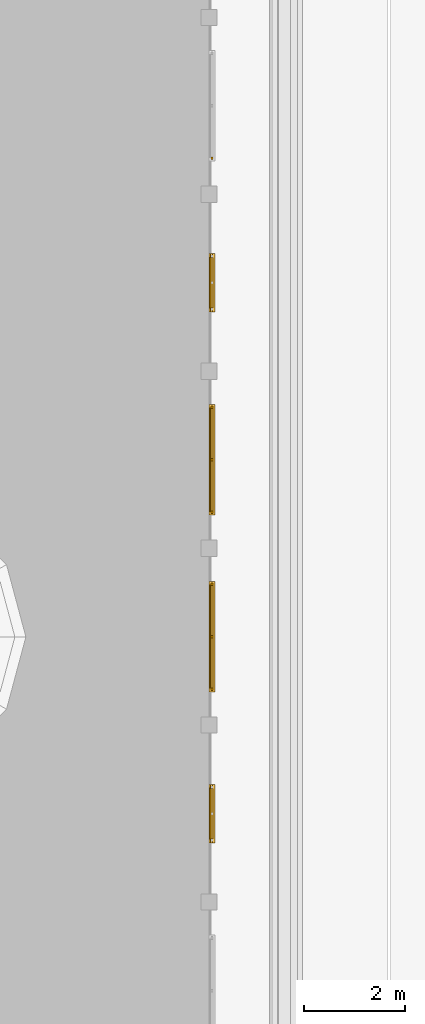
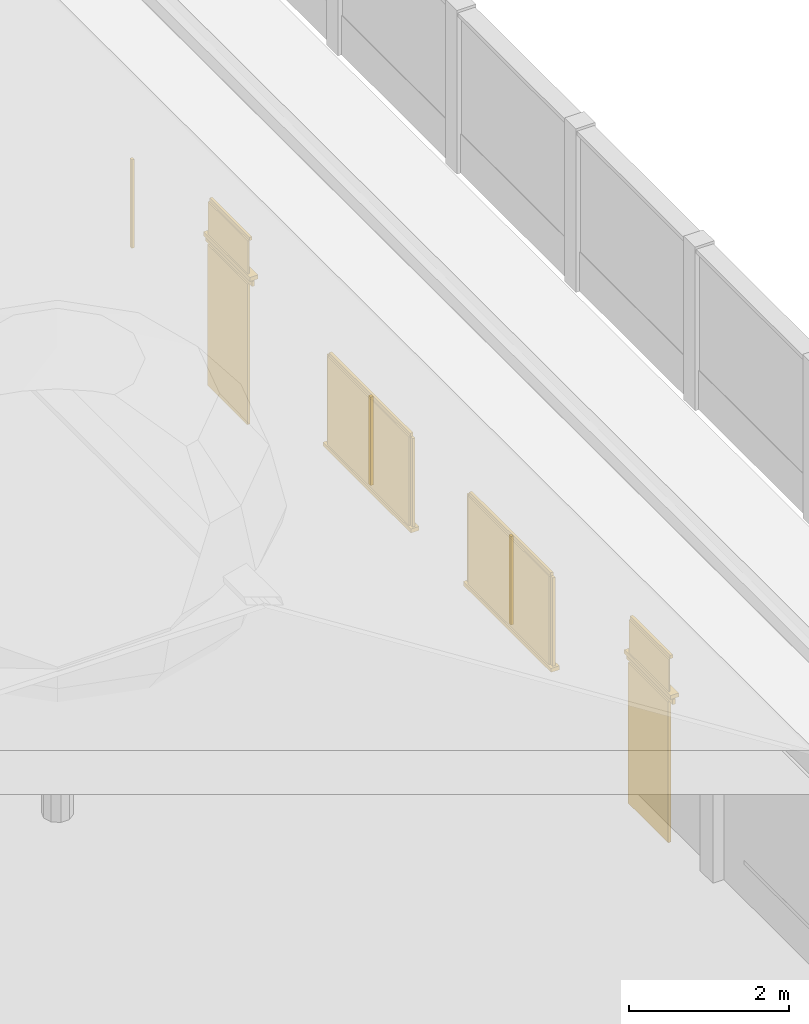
# One storey, part 72 of 177: 19 windows, 4 doors.
"""IFC4 building model written with IfcOpenShell, lengths in metres."""

from ifc_helpers import new_model, si_unit, origin, origin_with_axes, place, context, subcontext, project, spatial, triangles, element, save


model = new_model("IFC4")

# Units and contexts
model_context = context("Model", 3, precision=1e-05, world=origin_with_axes())
body_context = subcontext(model_context, "Body", "Model", "MODEL_VIEW")
ifc_project = project(units=[si_unit("LENGTHUNIT", "METRE"), si_unit("AREAUNIT", "SQUARE_METRE"), si_unit("VOLUMEUNIT", "CUBIC_METRE"), si_unit("PLANEANGLEUNIT", "RADIAN")], contexts=[model_context])

# Site, building, storey
site_placement = place(None, origin_with_axes())
site = spatial("IfcSite", under=ifc_project, at=site_placement, Name="Predio Los Mangos - Morales, San Martín", CompositionType="ELEMENT")
building_placement = place(site_placement, origin())
building = spatial("IfcBuilding", under=site, at=building_placement, Name="Hogar de Refugio Temporal", CompositionType="ELEMENT")
storey_placement = place(building_placement, origin())
storey = spatial("IfcBuildingStorey", under=building, at=storey_placement, Name="NIVEL 1 (NPT +0.00)", CompositionType="ELEMENT", Elevation=0.0)

# Doors
door_1_placement = place(storey_placement, origin())
element("IfcDoor", 1, at=door_1_placement, inside=storey, Name="E-07_p4", ObjectType="Puerta", PredefinedType="DOOR", context=body_context, shape_type="Tessellation", body=[
    triangles([(66.51, 107.995, 0.15), (66.55, 107.995, 0.15), (66.55, 108.995, 0.15), (66.51, 108.995, 0.15), (66.51, 107.995, 2.3), (66.55, 107.995, 2.3), (66.55, 108.995, 2.3), (66.51, 108.995, 2.3)], [[1, 4, 3], [1, 3, 2], [5, 6, 7], [5, 7, 8], [1, 2, 6], [1, 6, 5], [2, 3, 7], [2, 7, 6], [3, 4, 8], [3, 8, 7], [4, 1, 5], [4, 5, 8]]),
])
door_2_placement = place(storey_placement, origin())
element("IfcDoor", 2, at=door_2_placement, inside=storey, Name="E-07_p4_marco", ObjectType="Puerta", PredefinedType="DOOR", context=body_context, shape_type="Tessellation", body=[
    triangles([(66.53, 107.915, 2.3), (66.57, 107.915, 2.3), (66.57, 109.075, 2.3), (66.53, 109.075, 2.3), (66.53, 107.915, 2.38), (66.57, 107.915, 2.38), (66.57, 109.075, 2.38), (66.53, 109.075, 2.38)], [[1, 4, 3], [1, 3, 2], [5, 6, 7], [5, 7, 8], [1, 2, 6], [1, 6, 5], [2, 3, 7], [2, 7, 6], [3, 4, 8], [3, 8, 7], [4, 1, 5], [4, 5, 8]]),
])

# Windows
window_1_placement = place(storey_placement, origin())
element("IfcWindow", 3, at=window_1_placement, inside=storey, Name="E-07_vt4_vid", ObjectType="Ventana", PredefinedType="WINDOW", context=body_context, shape_type="Tessellation", body=[
    triangles([(66.52, 107.995, 2.45), (66.54, 107.995, 2.45), (66.54, 108.995, 2.45), (66.52, 108.995, 2.45), (66.52, 107.995, 2.95), (66.54, 107.995, 2.95), (66.54, 108.995, 2.95), (66.52, 108.995, 2.95)], [[1, 4, 3], [1, 3, 2], [5, 6, 7], [5, 7, 8], [1, 2, 6], [1, 6, 5], [2, 3, 7], [2, 7, 6], [3, 4, 8], [3, 8, 7], [4, 1, 5], [4, 5, 8]]),
])
window_2_placement = place(storey_placement, origin())
element("IfcWindow", 4, at=window_2_placement, inside=storey, Name="E-07_vt4_m", ObjectType="Ventana", PredefinedType="WINDOW", context=body_context, shape_type="Tessellation", body=[
    triangles([(66.54, 107.995, 2.95), (66.58, 107.995, 2.95), (66.58, 108.995, 2.95), (66.54, 108.995, 2.95), (66.54, 107.995, 3.0), (66.58, 107.995, 3.0), (66.58, 108.995, 3.0), (66.54, 108.995, 3.0)], [[1, 4, 3], [1, 3, 2], [5, 6, 7], [5, 7, 8], [1, 2, 6], [1, 6, 5], [2, 3, 7], [2, 7, 6], [3, 4, 8], [3, 8, 7], [4, 1, 5], [4, 5, 8]]),
])
window_3_placement = place(storey_placement, origin())
element("IfcWindow", 5, at=window_3_placement, inside=storey, Name="E-07_vt4_alf", ObjectType="Ventana", PredefinedType="WINDOW", context=body_context, shape_type="Tessellation", body=[
    triangles([(66.5, 107.915, 2.39), (66.62, 107.915, 2.39), (66.62, 109.075, 2.39), (66.5, 109.075, 2.39), (66.5, 107.915, 2.45), (66.62, 107.915, 2.45), (66.62, 109.075, 2.45), (66.5, 109.075, 2.45)], [[1, 4, 3], [1, 3, 2], [5, 6, 7], [5, 7, 8], [1, 2, 6], [1, 6, 5], [2, 3, 7], [2, 7, 6], [3, 4, 8], [3, 8, 7], [4, 1, 5], [4, 5, 8]]),
])
window_4_placement = place(storey_placement, origin())
element("IfcWindow", 6, at=window_4_placement, inside=storey, Name="E-07_v5_vid", ObjectType="Ventana", PredefinedType="WINDOW", context=body_context, shape_type="Tessellation", body=[
    triangles([(66.52, 110.9871, 1.05), (66.54, 110.9871, 1.05), (66.54, 113.0229, 1.05), (66.52, 113.0229, 1.05), (66.52, 110.9871, 2.4), (66.54, 110.9871, 2.4), (66.54, 113.0229, 2.4), (66.52, 113.0229, 2.4)], [[1, 4, 3], [1, 3, 2], [5, 6, 7], [5, 7, 8], [1, 2, 6], [1, 6, 5], [2, 3, 7], [2, 7, 6], [3, 4, 8], [3, 8, 7], [4, 1, 5], [4, 5, 8]]),
])
window_5_placement = place(storey_placement, origin())
element("IfcWindow", 7, at=window_5_placement, inside=storey, Name="E-07_v5_m", ObjectType="Ventana", PredefinedType="WINDOW", context=body_context, shape_type="Tessellation", body=[
    triangles([(66.54, 110.9371, 1.05), (66.58, 110.9371, 1.05), (66.58, 110.9871, 1.05), (66.54, 110.9871, 1.05), (66.54, 110.9371, 2.4), (66.58, 110.9371, 2.4), (66.58, 110.9871, 2.4), (66.54, 110.9871, 2.4)], [[1, 4, 3], [1, 3, 2], [5, 6, 7], [5, 7, 8], [1, 2, 6], [1, 6, 5], [2, 3, 7], [2, 7, 6], [3, 4, 8], [3, 8, 7], [4, 1, 5], [4, 5, 8]]),
])
window_6_placement = place(storey_placement, origin())
element("IfcWindow", 8, at=window_6_placement, inside=storey, Name="E-07_v5_m", ObjectType="Ventana", PredefinedType="WINDOW", context=body_context, shape_type="Tessellation", body=[
    triangles([(66.54, 113.0229, 1.05), (66.58, 113.0229, 1.05), (66.58, 113.0729, 1.05), (66.54, 113.0729, 1.05), (66.54, 113.0229, 2.4), (66.58, 113.0229, 2.4), (66.58, 113.0729, 2.4), (66.54, 113.0729, 2.4)], [[1, 4, 3], [1, 3, 2], [5, 6, 7], [5, 7, 8], [1, 2, 6], [1, 6, 5], [2, 3, 7], [2, 7, 6], [3, 4, 8], [3, 8, 7], [4, 1, 5], [4, 5, 8]]),
])
window_7_placement = place(storey_placement, origin())
element("IfcWindow", 9, at=window_7_placement, inside=storey, Name="E-07_v5_m", ObjectType="Ventana", PredefinedType="WINDOW", context=body_context, shape_type="Tessellation", body=[
    triangles([(66.54, 110.9871, 2.4), (66.58, 110.9871, 2.4), (66.58, 113.0229, 2.4), (66.54, 113.0229, 2.4), (66.54, 110.9871, 2.45), (66.58, 110.9871, 2.45), (66.58, 113.0229, 2.45), (66.54, 113.0229, 2.45)], [[1, 4, 3], [1, 3, 2], [5, 6, 7], [5, 7, 8], [1, 2, 6], [1, 6, 5], [2, 3, 7], [2, 7, 6], [3, 4, 8], [3, 8, 7], [4, 1, 5], [4, 5, 8]]),
])
window_8_placement = place(storey_placement, origin())
element("IfcWindow", 10, at=window_8_placement, inside=storey, Name="E-07_v5_m", ObjectType="Ventana", PredefinedType="WINDOW", context=body_context, shape_type="Tessellation", body=[
    triangles([(66.54, 111.98, 1.05), (66.58, 111.98, 1.05), (66.58, 112.03, 1.05), (66.54, 112.03, 1.05), (66.54, 111.98, 2.4), (66.58, 111.98, 2.4), (66.58, 112.03, 2.4), (66.54, 112.03, 2.4)], [[1, 4, 3], [1, 3, 2], [5, 6, 7], [5, 7, 8], [1, 2, 6], [1, 6, 5], [2, 3, 7], [2, 7, 6], [3, 4, 8], [3, 8, 7], [4, 1, 5], [4, 5, 8]]),
])
window_9_placement = place(storey_placement, origin())
element("IfcWindow", 11, at=window_9_placement, inside=storey, Name="E-07_v5_alf", ObjectType="Ventana", PredefinedType="WINDOW", context=body_context, shape_type="Tessellation", body=[
    triangles([(66.5, 110.9071, 0.99), (66.62, 110.9071, 0.99), (66.62, 113.1029, 0.99), (66.5, 113.1029, 0.99), (66.5, 110.9071, 1.05), (66.62, 110.9071, 1.05), (66.62, 113.1029, 1.05), (66.5, 113.1029, 1.05)], [[1, 4, 3], [1, 3, 2], [5, 6, 7], [5, 7, 8], [1, 2, 6], [1, 6, 5], [2, 3, 7], [2, 7, 6], [3, 4, 8], [3, 8, 7], [4, 1, 5], [4, 5, 8]]),
])
window_10_placement = place(storey_placement, origin())
element("IfcWindow", 12, at=window_10_placement, inside=storey, Name="E-07_v6_vid", ObjectType="Ventana", PredefinedType="WINDOW", context=body_context, shape_type="Tessellation", body=[
    triangles([(66.52, 114.4971, 1.05), (66.54, 114.4971, 1.05), (66.54, 116.5329, 1.05), (66.52, 116.5329, 1.05), (66.52, 114.4971, 2.4), (66.54, 114.4971, 2.4), (66.54, 116.5329, 2.4), (66.52, 116.5329, 2.4)], [[1, 4, 3], [1, 3, 2], [5, 6, 7], [5, 7, 8], [1, 2, 6], [1, 6, 5], [2, 3, 7], [2, 7, 6], [3, 4, 8], [3, 8, 7], [4, 1, 5], [4, 5, 8]]),
])
window_11_placement = place(storey_placement, origin())
element("IfcWindow", 13, at=window_11_placement, inside=storey, Name="E-07_v6_m", ObjectType="Ventana", PredefinedType="WINDOW", context=body_context, shape_type="Tessellation", body=[
    triangles([(66.54, 114.4471, 1.05), (66.58, 114.4471, 1.05), (66.58, 114.4971, 1.05), (66.54, 114.4971, 1.05), (66.54, 114.4471, 2.4), (66.58, 114.4471, 2.4), (66.58, 114.4971, 2.4), (66.54, 114.4971, 2.4)], [[1, 4, 3], [1, 3, 2], [5, 6, 7], [5, 7, 8], [1, 2, 6], [1, 6, 5], [2, 3, 7], [2, 7, 6], [3, 4, 8], [3, 8, 7], [4, 1, 5], [4, 5, 8]]),
])
window_12_placement = place(storey_placement, origin())
element("IfcWindow", 14, at=window_12_placement, inside=storey, Name="E-07_v6_m", ObjectType="Ventana", PredefinedType="WINDOW", context=body_context, shape_type="Tessellation", body=[
    triangles([(66.54, 116.5329, 1.05), (66.58, 116.5329, 1.05), (66.58, 116.5829, 1.05), (66.54, 116.5829, 1.05), (66.54, 116.5329, 2.4), (66.58, 116.5329, 2.4), (66.58, 116.5829, 2.4), (66.54, 116.5829, 2.4)], [[1, 4, 3], [1, 3, 2], [5, 6, 7], [5, 7, 8], [1, 2, 6], [1, 6, 5], [2, 3, 7], [2, 7, 6], [3, 4, 8], [3, 8, 7], [4, 1, 5], [4, 5, 8]]),
])
window_13_placement = place(storey_placement, origin())
element("IfcWindow", 15, at=window_13_placement, inside=storey, Name="E-07_v6_m", ObjectType="Ventana", PredefinedType="WINDOW", context=body_context, shape_type="Tessellation", body=[
    triangles([(66.54, 114.4971, 2.4), (66.58, 114.4971, 2.4), (66.58, 116.5329, 2.4), (66.54, 116.5329, 2.4), (66.54, 114.4971, 2.45), (66.58, 114.4971, 2.45), (66.58, 116.5329, 2.45), (66.54, 116.5329, 2.45)], [[1, 4, 3], [1, 3, 2], [5, 6, 7], [5, 7, 8], [1, 2, 6], [1, 6, 5], [2, 3, 7], [2, 7, 6], [3, 4, 8], [3, 8, 7], [4, 1, 5], [4, 5, 8]]),
])
window_14_placement = place(storey_placement, origin())
element("IfcWindow", 16, at=window_14_placement, inside=storey, Name="E-07_v6_m", ObjectType="Ventana", PredefinedType="WINDOW", context=body_context, shape_type="Tessellation", body=[
    triangles([(66.54, 115.49, 1.05), (66.58, 115.49, 1.05), (66.58, 115.54, 1.05), (66.54, 115.54, 1.05), (66.54, 115.49, 2.4), (66.58, 115.49, 2.4), (66.58, 115.54, 2.4), (66.54, 115.54, 2.4)], [[1, 4, 3], [1, 3, 2], [5, 6, 7], [5, 7, 8], [1, 2, 6], [1, 6, 5], [2, 3, 7], [2, 7, 6], [3, 4, 8], [3, 8, 7], [4, 1, 5], [4, 5, 8]]),
])
window_15_placement = place(storey_placement, origin())
element("IfcWindow", 17, at=window_15_placement, inside=storey, Name="E-07_v6_alf", ObjectType="Ventana", PredefinedType="WINDOW", context=body_context, shape_type="Tessellation", body=[
    triangles([(66.5, 114.4171, 0.99), (66.62, 114.4171, 0.99), (66.62, 116.6129, 0.99), (66.5, 116.6129, 0.99), (66.5, 114.4171, 1.05), (66.62, 114.4171, 1.05), (66.62, 116.6129, 1.05), (66.5, 116.6129, 1.05)], [[1, 4, 3], [1, 3, 2], [5, 6, 7], [5, 7, 8], [1, 2, 6], [1, 6, 5], [2, 3, 7], [2, 7, 6], [3, 4, 8], [3, 8, 7], [4, 1, 5], [4, 5, 8]]),
])

# Doors
door_3_placement = place(storey_placement, origin())
element("IfcDoor", 18, at=door_3_placement, inside=storey, Name="E-07_p7", ObjectType="Puerta", PredefinedType="DOOR", context=body_context, shape_type="Tessellation", body=[
    triangles([(66.51, 118.525, 0.15), (66.55, 118.525, 0.15), (66.55, 119.525, 0.15), (66.51, 119.525, 0.15), (66.51, 118.525, 2.3), (66.55, 118.525, 2.3), (66.55, 119.525, 2.3), (66.51, 119.525, 2.3)], [[1, 4, 3], [1, 3, 2], [5, 6, 7], [5, 7, 8], [1, 2, 6], [1, 6, 5], [2, 3, 7], [2, 7, 6], [3, 4, 8], [3, 8, 7], [4, 1, 5], [4, 5, 8]]),
])
door_4_placement = place(storey_placement, origin())
element("IfcDoor", 19, at=door_4_placement, inside=storey, Name="E-07_p7_marco", ObjectType="Puerta", PredefinedType="DOOR", context=body_context, shape_type="Tessellation", body=[
    triangles([(66.53, 118.445, 2.3), (66.57, 118.445, 2.3), (66.57, 119.605, 2.3), (66.53, 119.605, 2.3), (66.53, 118.445, 2.38), (66.57, 118.445, 2.38), (66.57, 119.605, 2.38), (66.53, 119.605, 2.38)], [[1, 4, 3], [1, 3, 2], [5, 6, 7], [5, 7, 8], [1, 2, 6], [1, 6, 5], [2, 3, 7], [2, 7, 6], [3, 4, 8], [3, 8, 7], [4, 1, 5], [4, 5, 8]]),
])

# Windows
window_16_placement = place(storey_placement, origin())
element("IfcWindow", 20, at=window_16_placement, inside=storey, Name="E-07_vt7_vid", ObjectType="Ventana", PredefinedType="WINDOW", context=body_context, shape_type="Tessellation", body=[
    triangles([(66.52, 118.525, 2.45), (66.54, 118.525, 2.45), (66.54, 119.525, 2.45), (66.52, 119.525, 2.45), (66.52, 118.525, 2.95), (66.54, 118.525, 2.95), (66.54, 119.525, 2.95), (66.52, 119.525, 2.95)], [[1, 4, 3], [1, 3, 2], [5, 6, 7], [5, 7, 8], [1, 2, 6], [1, 6, 5], [2, 3, 7], [2, 7, 6], [3, 4, 8], [3, 8, 7], [4, 1, 5], [4, 5, 8]]),
])
window_17_placement = place(storey_placement, origin())
element("IfcWindow", 21, at=window_17_placement, inside=storey, Name="E-07_vt7_m", ObjectType="Ventana", PredefinedType="WINDOW", context=body_context, shape_type="Tessellation", body=[
    triangles([(66.54, 118.525, 2.95), (66.58, 118.525, 2.95), (66.58, 119.525, 2.95), (66.54, 119.525, 2.95), (66.54, 118.525, 3.0), (66.58, 118.525, 3.0), (66.58, 119.525, 3.0), (66.54, 119.525, 3.0)], [[1, 4, 3], [1, 3, 2], [5, 6, 7], [5, 7, 8], [1, 2, 6], [1, 6, 5], [2, 3, 7], [2, 7, 6], [3, 4, 8], [3, 8, 7], [4, 1, 5], [4, 5, 8]]),
])
window_18_placement = place(storey_placement, origin())
element("IfcWindow", 22, at=window_18_placement, inside=storey, Name="E-07_vt7_alf", ObjectType="Ventana", PredefinedType="WINDOW", context=body_context, shape_type="Tessellation", body=[
    triangles([(66.5, 118.445, 2.39), (66.62, 118.445, 2.39), (66.62, 119.605, 2.39), (66.5, 119.605, 2.39), (66.5, 118.445, 2.45), (66.62, 118.445, 2.45), (66.62, 119.605, 2.45), (66.5, 119.605, 2.45)], [[1, 4, 3], [1, 3, 2], [5, 6, 7], [5, 7, 8], [1, 2, 6], [1, 6, 5], [2, 3, 7], [2, 7, 6], [3, 4, 8], [3, 8, 7], [4, 1, 5], [4, 5, 8]]),
])
window_19_placement = place(storey_placement, origin())
element("IfcWindow", 23, at=window_19_placement, inside=storey, Name="E-07_v8_m", ObjectType="Ventana", PredefinedType="WINDOW", context=body_context, shape_type="Tessellation", body=[
    triangles([(66.54, 121.4671, 1.05), (66.58, 121.4671, 1.05), (66.58, 121.5171, 1.05), (66.54, 121.5171, 1.05), (66.54, 121.4671, 2.4), (66.58, 121.4671, 2.4), (66.58, 121.5171, 2.4), (66.54, 121.5171, 2.4)], [[1, 4, 3], [1, 3, 2], [5, 6, 7], [5, 7, 8], [1, 2, 6], [1, 6, 5], [2, 3, 7], [2, 7, 6], [3, 4, 8], [3, 8, 7], [4, 1, 5], [4, 5, 8]]),
])

save(model, "model.ifc")
